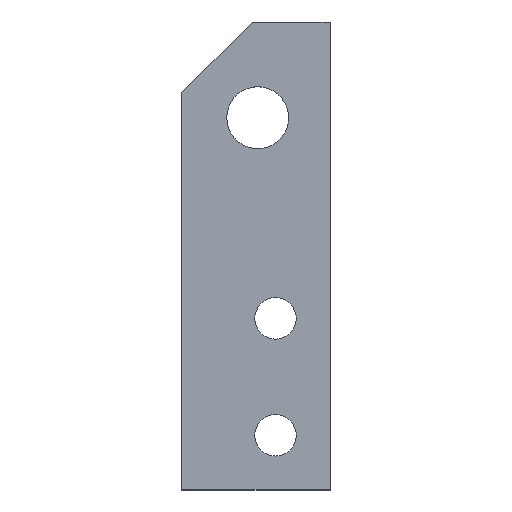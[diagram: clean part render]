
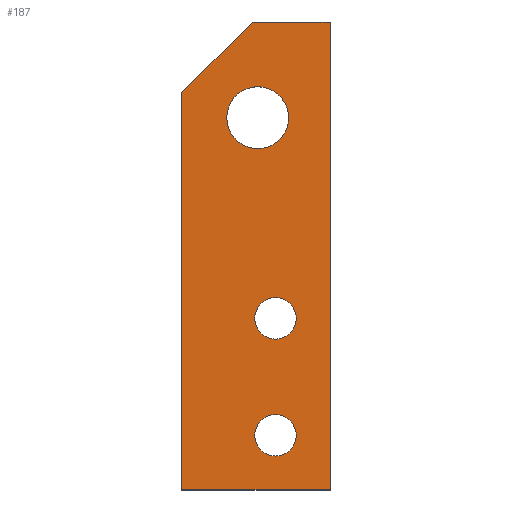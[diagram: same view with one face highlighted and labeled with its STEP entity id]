
A CAD part, top view. The second image highlights one B-rep face of the part: STEP entity #187.
In plain terms, the highlighted planar face has unit normal (0, 0, 1).
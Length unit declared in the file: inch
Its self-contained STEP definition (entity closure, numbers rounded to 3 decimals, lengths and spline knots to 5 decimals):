
#17=LINE('',#278,#32);
#21=LINE('',#285,#36);
#25=LINE('',#294,#40);
#27=LINE('',#298,#42);
#29=LINE('',#301,#44);
#32=VECTOR('',#230,0.6364);
#36=VECTOR('',#236,2.55);
#40=VECTOR('',#244,0.5);
#42=VECTOR('',#248,3.);
#44=VECTOR('',#252,0.95);
#51=PLANE('',#205);
#58=FACE_BOUND('',#87,.T.);
#59=FACE_BOUND('',#88,.T.);
#60=FACE_BOUND('',#89,.T.);
#70=FACE_OUTER_BOUND('',#86,.T.);
#86=EDGE_LOOP('',(#167,#168,#169,#170,#171));
#87=EDGE_LOOP('',(#172));
#88=EDGE_LOOP('',(#173));
#89=EDGE_LOOP('',(#174));
#90=CIRCLE('',#191,0.133);
#92=CIRCLE('',#194,0.1985);
#94=CIRCLE('',#197,0.133);
#96=VERTEX_POINT('',#257);
#98=VERTEX_POINT('',#262);
#100=VERTEX_POINT('',#267);
#104=VERTEX_POINT('',#275);
#105=VERTEX_POINT('',#277);
#107=VERTEX_POINT('',#283);
#110=VERTEX_POINT('',#293);
#111=VERTEX_POINT('',#297);
#112=EDGE_CURVE('',#96,#96,#90,.T.);
#114=EDGE_CURVE('',#98,#98,#92,.T.);
#116=EDGE_CURVE('',#100,#100,#94,.T.);
#120=EDGE_CURVE('',#105,#104,#17,.T.);
#124=EDGE_CURVE('',#104,#107,#21,.T.);
#128=EDGE_CURVE('',#110,#105,#25,.T.);
#130=EDGE_CURVE('',#111,#110,#27,.T.);
#132=EDGE_CURVE('',#107,#111,#29,.T.);
#167=ORIENTED_EDGE('',*,*,#120,.T.);
#168=ORIENTED_EDGE('',*,*,#124,.T.);
#169=ORIENTED_EDGE('',*,*,#132,.T.);
#170=ORIENTED_EDGE('',*,*,#130,.T.);
#171=ORIENTED_EDGE('',*,*,#128,.T.);
#172=ORIENTED_EDGE('',*,*,#112,.T.);
#173=ORIENTED_EDGE('',*,*,#114,.T.);
#174=ORIENTED_EDGE('',*,*,#116,.T.);
#187=ADVANCED_FACE('',(#70,#58,#59,#60),#51,.T.);
#191=AXIS2_PLACEMENT_3D('',#258,#210,#211);
#194=AXIS2_PLACEMENT_3D('',#263,#216,#217);
#197=AXIS2_PLACEMENT_3D('',#268,#222,#223);
#205=AXIS2_PLACEMENT_3D('',#302,#253,#254);
#210=DIRECTION('center_axis',(0.,0.,-1.));
#211=DIRECTION('ref_axis',(1.,0.,0.));
#216=DIRECTION('center_axis',(0.,0.,-1.));
#217=DIRECTION('ref_axis',(1.,0.,0.));
#222=DIRECTION('center_axis',(0.,0.,-1.));
#223=DIRECTION('ref_axis',(1.,0.,0.));
#230=DIRECTION('',(-0.707,-0.707,0.));
#236=DIRECTION('',(0.,-1.,0.));
#244=DIRECTION('',(-1.,0.,0.));
#248=DIRECTION('',(0.,1.,0.));
#252=DIRECTION('',(1.,0.,0.));
#253=DIRECTION('center_axis',(0.,0.,1.));
#254=DIRECTION('ref_axis',(1.,0.,0.));
#257=CARTESIAN_POINT('',(0.467,1.1,0.1875));
#258=CARTESIAN_POINT('Origin',(0.6,1.1,0.1875));
#262=CARTESIAN_POINT('',(0.28734,2.38672,0.1875));
#263=CARTESIAN_POINT('Origin',(0.48584,2.38672,0.1875));
#267=CARTESIAN_POINT('',(0.467,0.35,0.1875));
#268=CARTESIAN_POINT('Origin',(0.6,0.35,0.1875));
#275=CARTESIAN_POINT('',(0.,2.55,0.1875));
#277=CARTESIAN_POINT('',(0.45,3.,0.1875));
#278=CARTESIAN_POINT('',(0.08125,2.63125,0.1875));
#283=CARTESIAN_POINT('',(0.,0.,0.1875));
#285=CARTESIAN_POINT('',(0.,3.,0.1875));
#293=CARTESIAN_POINT('',(0.95,3.,0.1875));
#294=CARTESIAN_POINT('',(0.95,3.,0.1875));
#297=CARTESIAN_POINT('',(0.95,0.,0.1875));
#298=CARTESIAN_POINT('',(0.95,0.,0.1875));
#301=CARTESIAN_POINT('',(0.,0.,0.1875));
#302=CARTESIAN_POINT('Origin',(0.475,1.5,0.1875));
